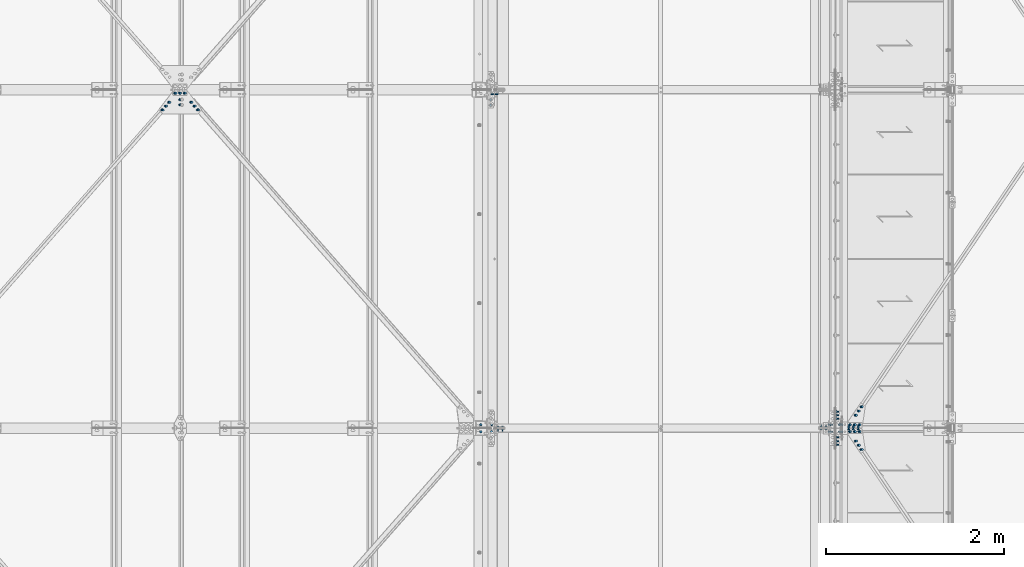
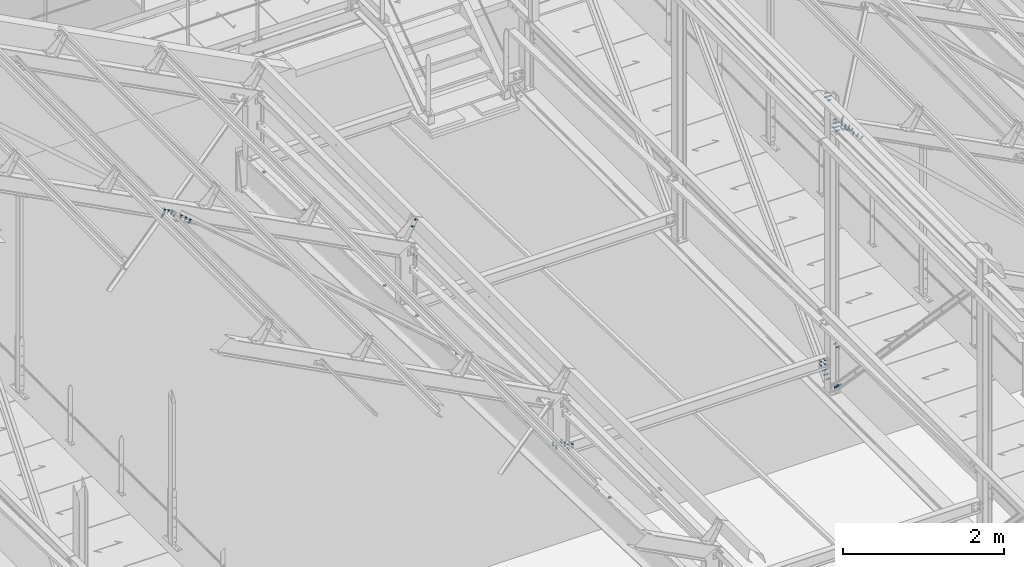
# One storey, part 170 of 362: 20 mechanical fasteners.
"""IFC2X3 building model written with IfcOpenShell, lengths in millimetres."""

from ifc_helpers import new_model, si_unit, frame, frame_2d, origin_with_axes, origin_2d_with_axis, place, context, subcontext, project, spatial, polyline, circle_curve, parameter, trimmed, segment, composite_curve, circle, outline, extrude, source, transform, mapped, material, type_object, element, save


model = new_model("IFC2X3")

# Units and contexts
model_context = context("Model", 3, precision=1e-05, world=origin_with_axes())
body_context = subcontext(model_context, "Body", "Model", "MODEL_VIEW")
ifc_project = project(units=[si_unit("LENGTHUNIT", "METRE", prefix="MILLI"), si_unit("AREAUNIT", "SQUARE_METRE"), si_unit("VOLUMEUNIT", "CUBIC_METRE"), si_unit("MASSUNIT", "GRAM", prefix="KILO"), si_unit("TIMEUNIT", "SECOND"), si_unit("PLANEANGLEUNIT", "RADIAN"), si_unit("SOLIDANGLEUNIT", "STERADIAN"), si_unit("THERMODYNAMICTEMPERATUREUNIT", "DEGREE_CELSIUS"), si_unit("LUMINOUSINTENSITYUNIT", "LUMEN")], contexts=[model_context])

# Site, building, storey
site_placement = place(None, origin_with_axes())
site = spatial("IfcSite", under=ifc_project, at=site_placement, Name="Undefined", CompositionType="ELEMENT")
building_placement = place(site_placement, origin_with_axes())
building = spatial("IfcBuilding", under=site, at=building_placement, Name="Undefined", CompositionType="ELEMENT")
storey_placement = place(building_placement, origin_with_axes())
storey = spatial("IfcBuildingStorey", under=building, at=storey_placement, Name="Undefined", CompositionType="ELEMENT", Elevation=0.0)

# Mechanical fasteners
ifc_material_1 = material(Name="8.8-SB-ZINGUE")
mechanical_fastener_type = type_object("IfcMechanicalFastenerType", Name="Bolt assembly")
shared_shape_1 = source(origin_with_axes(), body_context, "Body", "SweptSolid", [
    extrude(circle(Radius=7.0, at=origin_2d_with_axis()), frame((0.0, -0.10007666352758, 0.0), z_axis=(0.0, 1.0, 0.0), x_axis=(1.0, 0.0, 0.0)), (0.0, 0.0, 1.0), 3.1),
    extrude(circle(Radius=7.0, at=origin_2d_with_axis()), frame((0.0, -9.9, 0.0), z_axis=(0.0, 1.0, 0.0), x_axis=(1.0, 0.0, 0.0)), (0.0, 0.0, 1.0), 10.0),
    extrude(outline(polyline([(10.39230484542, 0.0), (5.19615242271, 9.00000000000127), (-5.19615242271, 9.00000000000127), (-10.39230484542, 0.0), (-5.19615242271, -9.00000000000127), (5.19615242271, -9.00000000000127), (10.39230484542, 0.0)])), frame((0.0, -17.92, 0.0), z_axis=(0.0, 1.0, 0.0), x_axis=(1.0, 0.0, 0.0)), (0.0, 0.0, 1.0), 7.92),
    extrude(circle(Radius=6.0, at=origin_2d_with_axis()), frame((0.0, -10.0000010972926, 0.0), z_axis=(0.0, 1.0, 0.0), x_axis=(1.0, 0.0, 0.0)), (0.0, 0.0, 1.0), 30.0),
    extrude(outline(polyline([(11.5008173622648, 0.0), (5.7504086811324, 9.96000000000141), (-5.7504086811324, 9.96000000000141), (-11.5008173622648, 0.0), (-5.7504086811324, -9.96000000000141), (5.7504086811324, -9.96000000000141), (11.5008173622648, 0.0)])), frame((0.0, 3.00000067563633, 0.0), z_axis=(0.0, 1.0, 0.0), x_axis=(1.0, 0.0, 0.0)), (0.0, 0.0, 1.0), 7.92),
])
mechanical_fastener_1_placement = place(storey_placement, frame((19620.3252333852, 11350.0000596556, 8812.98460901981), z_axis=(0.0, 1.0, 0.0), x_axis=(0.463528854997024, 6.99999093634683e-09, 0.886081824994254)))
element("IfcMechanicalFastener", 1, at=mechanical_fastener_1_placement, inside=storey, type_object=mechanical_fastener_type, material=ifc_material_1, Name="Bolt assembly", NominalDiameter=12.0, NominalLength=30.0, context=body_context, shape_type="MappedRepresentation", body=[
    mapped(shared_shape_1, transform((0.0, 0.0, 0.0))),
    mapped(shared_shape_1, transform((99.9999999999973, -1.63709046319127e-11, 7.73070496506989e-12))),
])
ifc_material_2 = material(Name="#_SB-8.8-ZINGUE")
shared_shape_2 = source(origin_with_axes(), body_context, "Body", "SweptSolid", [
    extrude(circle(Radius=9.0, at=origin_2d_with_axis()), frame((0.0, -5.8999542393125, 0.0), z_axis=(0.0, 1.0, 0.0), x_axis=(1.0, 0.0, 0.0)), (0.0, 0.0, 1.0), 6.0),
    extrude(circle(Radius=9.0, at=origin_2d_with_axis()), frame((0.0, -0.100011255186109, 0.0), z_axis=(0.0, 1.0, 0.0), x_axis=(1.0, 0.0, 0.0)), (0.0, 0.0, 1.0), 6.1),
    extrude(outline(polyline([(13.85640646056, 0.0), (6.92820323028, 12.0000000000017), (-6.92820323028, 12.0000000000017), (-13.85640646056, 0.0), (-6.92820323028, -12.0000000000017), (6.92820323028, -12.0000000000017), (13.85640646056, 0.0)])), frame((0.0, -16.5599735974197, 0.0), z_axis=(0.0, 1.0, 0.0), x_axis=(1.0, 0.0, 0.0)), (0.0, 0.0, 1.0), 10.56),
    extrude(circle(Radius=8.0, at=origin_2d_with_axis()), frame((0.0, -5.9999542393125, 0.0), z_axis=(0.0, 1.0, 0.0), x_axis=(1.0, 0.0, 0.0)), (0.0, 0.0, 1.0), 40.0),
    extrude(outline(polyline([(15.3344231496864, 0.0), (7.6672115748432, 13.2800000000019), (-7.6672115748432, 13.2800000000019), (-15.3344231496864, 0.0), (-7.6672115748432, -13.2800000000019), (7.6672115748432, -13.2800000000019), (15.3344231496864, 0.0)])), frame((0.0, 6.0, 0.0), z_axis=(0.0, 1.0, 0.0), x_axis=(1.0, 0.0, 0.0)), (0.0, 0.0, 1.0), 10.56),
])
for number, where, z_axis, x_axis, name in (
    (2, (16239.1603317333, 11259.0095576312, 10209.3179658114), (0.628485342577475, 0.704921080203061, -0.328774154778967), (0.624617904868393, -0.709285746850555, -0.326750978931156), "Bolt assembly"),
    (3, (15990.8396660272, 11259.009555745, 10339.2198168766), (0.628485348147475, -0.704921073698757, -0.328774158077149), (-0.624617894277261, -0.709285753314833, 0.326750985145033), "Bolt assembly"),
):
    element("IfcMechanicalFastener", number, at=place(storey_placement, frame(where, z_axis=z_axis, x_axis=x_axis)), inside=storey, type_object=mechanical_fastener_type, material=ifc_material_2, Name=name, NominalDiameter=16.0, NominalLength=40.0, context=body_context, shape_type="MappedRepresentation", body=[
        mapped(shared_shape_2, transform((0.0, 0.0, 0.0))),
        mapped(shared_shape_2, transform((60.0, 0.0, 0.0))),
        mapped(shared_shape_2, transform((120.0, 0.0, 0.0))),
    ])
shared_shape_3 = source(origin_with_axes(), body_context, "Body", "SweptSolid", [
    extrude(circle(Radius=9.0, at=origin_2d_with_axis()), frame((0.0, 0.1, 0.0), z_axis=(0.0, 1.0, 0.0), x_axis=(1.0, 0.0, 0.0)), (0.0, 0.0, 1.0), 6.0),
    extrude(circle(Radius=9.0, at=origin_2d_with_axis()), frame((0.0, 5.90002706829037, 0.0), z_axis=(0.0, 1.0, 0.0), x_axis=(1.0, 0.0, 0.0)), (0.0, 0.0, 1.0), 6.1),
    extrude(outline(polyline([(13.85640646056, 0.0), (6.92820323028, 12.0000000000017), (-6.92820323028, 12.0000000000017), (-13.85640646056, 0.0), (-6.92820323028, -12.0000000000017), (6.92820323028, -12.0000000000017), (13.85640646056, 0.0)])), frame((0.0, -10.5600019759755, 0.0), z_axis=(0.0, 1.0, 0.0), x_axis=(1.0, 0.0, 0.0)), (0.0, 0.0, 1.0), 10.56),
    extrude(circle(Radius=8.0, at=origin_2d_with_axis()), frame((0.0, 0.0, 0.0), z_axis=(0.0, 1.0, 0.0), x_axis=(1.0, 0.0, 0.0)), (0.0, 0.0, 1.0), 40.0),
    extrude(outline(polyline([(15.3344231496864, 0.0), (7.6672115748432, 13.2800000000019), (-7.6672115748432, 13.2800000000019), (-15.3344231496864, 0.0), (-7.6672115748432, -13.2800000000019), (7.6672115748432, -13.2800000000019), (15.3344231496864, 0.0)])), frame((0.0, 12.0000270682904, 0.0), z_axis=(0.0, 1.0, 0.0), x_axis=(1.0, 0.0, 0.0)), (0.0, 0.0, 1.0), 10.56),
])
for number, where, z_axis, x_axis, name in (
    (4, (23691.9693613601, 7562.00026809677, 11177.620775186), (-0.887870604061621, -1.29999898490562e-08, 0.460093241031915), (0.0, 1.0, 0.0), "Bolt assembly"),
    (5, (23691.9693602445, 7638.00006289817, 11177.6207751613), (0.887870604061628, 0.0, -0.460093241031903), (0.0, -1.0, 0.0), "Bolt assembly"),
    (6, (16114.9966699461, 11361.500154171, 10274.2706319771), (-0.886082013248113, 9.38091927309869e-07, 0.463528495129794), (0.0, 1.0, 0.0), "Bolt assembly"),
):
    element("IfcMechanicalFastener", number, at=place(storey_placement, frame(where, z_axis=z_axis, x_axis=x_axis)), inside=storey, type_object=mechanical_fastener_type, material=ifc_material_2, Name=name, NominalDiameter=16.0, NominalLength=40.0, context=body_context, shape_type="MappedRepresentation", body=[
        mapped(shared_shape_3, transform((0.0, 0.0, -60.0))),
        mapped(shared_shape_3, transform((0.0, 0.0, 0.0))),
        mapped(shared_shape_3, transform((0.0, 0.0, 60.0))),
    ])
shared_shape_4 = source(origin_with_axes(), body_context, "Body", "SweptSolid", [
    extrude(circle(Radius=9.0, at=origin_2d_with_axis()), frame((0.0, -10.9000000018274, 0.0), z_axis=(0.0, 1.0, 0.0), x_axis=(1.0, 0.0, 0.0)), (0.0, 0.0, 1.0), 6.0),
    extrude(circle(Radius=9.0, at=origin_2d_with_axis()), frame((0.0, 4.9000000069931, 0.0), z_axis=(0.0, 1.0, 0.0), x_axis=(1.0, 0.0, 0.0)), (0.0, 0.0, 1.0), 6.1),
    extrude(circle(Radius=9.0, at=origin_2d_with_axis()), frame((0.0, -3.99999923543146, 0.0), z_axis=(0.0, 1.0, 0.0), x_axis=(1.0, 0.0, 0.0)), (0.0, 0.0, 1.0), 8.0),
    extrude(outline(polyline([(13.85640646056, 0.0), (6.92820323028, 12.0000000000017), (-6.92820323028, 12.0000000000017), (-13.85640646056, 0.0), (-6.92820323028, -12.0000000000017), (6.92820323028, -12.0000000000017), (13.85640646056, 0.0)])), frame((0.0, -21.5600000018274, 0.0), z_axis=(0.0, 1.0, 0.0), x_axis=(1.0, 0.0, 0.0)), (0.0, 0.0, 1.0), 10.56),
    extrude(circle(Radius=8.0, at=origin_2d_with_axis()), frame((0.0, -11.0000000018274, 0.0), z_axis=(0.0, 1.0, 0.0), x_axis=(1.0, 0.0, 0.0)), (0.0, 0.0, 1.0), 50.0),
    extrude(outline(polyline([(15.3344231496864, 0.0), (7.6672115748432, 13.2800000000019), (-7.6672115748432, 13.2800000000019), (-15.3344231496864, 0.0), (-7.6672115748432, -13.2800000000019), (7.6672115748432, -13.2800000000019), (15.3344231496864, 0.0)])), frame((0.0, 11.0000000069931, 0.0), z_axis=(0.0, 1.0, 0.0), x_axis=(1.0, 0.0, 0.0)), (0.0, 0.0, 1.0), 10.56),
])
for number, where, z_axis, x_axis, name in (
    (7, (23470.0, 7496.49732713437, 7358.56885556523), (0.0, 0.723792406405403, 0.69001779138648), (0.0, -0.69001779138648, 0.723792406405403), "Bolt assembly"),
    (8, (23470.0, 7703.50267536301, 7358.56885461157), (0.0, 0.723792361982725, -0.690017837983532), (0.0, 0.690017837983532, 0.723792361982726), "Bolt assembly"),
):
    element("IfcMechanicalFastener", number, at=place(storey_placement, frame(where, z_axis=z_axis, x_axis=x_axis)), inside=storey, type_object=mechanical_fastener_type, material=ifc_material_1, Name=name, NominalDiameter=16.0, NominalLength=50.0, context=body_context, shape_type="MappedRepresentation", body=[
        mapped(shared_shape_4, transform((0.0, 0.0, 0.0))),
        mapped(shared_shape_4, transform((60.0, 0.0, 0.0))),
        mapped(shared_shape_4, transform((120.0, 0.0, 0.0))),
    ])
shared_shape_5 = source(origin_with_axes(), body_context, "Body", "SweptSolid", [
    extrude(circle(Radius=7.0, at=origin_2d_with_axis()), frame((0.0, -0.10007666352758, 0.0), z_axis=(0.0, 1.0, 0.0), x_axis=(1.0, 0.0, 0.0)), (0.0, 0.0, 1.0), 8.6),
    extrude(circle(Radius=7.0, at=origin_2d_with_axis()), frame((0.0, -6.9, 0.0), z_axis=(0.0, 1.0, 0.0), x_axis=(1.0, 0.0, 0.0)), (0.0, 0.0, 1.0), 7.0),
    extrude(outline(polyline([(10.39230484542, 0.0), (5.19615242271, 9.00000000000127), (-5.19615242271, 9.00000000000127), (-10.39230484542, 0.0), (-5.19615242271, -9.00000000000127), (5.19615242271, -9.00000000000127), (10.39230484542, 0.0)])), frame((0.0, -14.92, 0.0), z_axis=(0.0, 1.0, 0.0), x_axis=(1.0, 0.0, 0.0)), (0.0, 0.0, 1.0), 7.92),
    extrude(circle(Radius=6.0, at=origin_2d_with_axis()), frame((0.0, -7.0, 0.0), z_axis=(0.0, 1.0, 0.0), x_axis=(1.0, 0.0, 0.0)), (0.0, 0.0, 1.0), 30.0),
    extrude(outline(polyline([(11.5008173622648, 0.0), (5.7504086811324, 9.96000000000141), (-5.7504086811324, 9.96000000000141), (-11.5008173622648, 0.0), (-5.7504086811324, -9.96000000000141), (5.7504086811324, -9.96000000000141), (11.5008173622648, 0.0)])), frame((0.0, 8.49994421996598, 0.0), z_axis=(0.0, 1.0, 0.0), x_axis=(1.0, 0.0, 0.0)), (0.0, 0.0, 1.0), 7.92),
])
mechanical_fastener_2_placement = place(storey_placement, frame((23536.49994422, 7599.99999998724, 7910.00000000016), z_axis=(0.0, -1.0, 0.0), x_axis=(0.0, 0.0, 1.0)))
element("IfcMechanicalFastener", 9, at=mechanical_fastener_2_placement, inside=storey, type_object=mechanical_fastener_type, material=ifc_material_1, Name="Bolt assembly", NominalDiameter=12.0, NominalLength=30.0, context=body_context, shape_type="MappedRepresentation", body=[
    mapped(shared_shape_5, transform((0.0, 0.0, -40.0))),
    mapped(shared_shape_5, transform((0.0, 0.0, 40.0))),
])
shared_shape_6 = source(origin_with_axes(), body_context, "Body", "SweptSolid", [
    extrude(circle(Radius=9.0, at=origin_2d_with_axis()), frame((0.0, -3.89999843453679, 0.0), z_axis=(0.0, 1.0, 0.0), x_axis=(1.0, 0.0, 0.0)), (0.0, 0.0, 1.0), 4.0),
    extrude(circle(Radius=9.0, at=origin_2d_with_axis()), frame((0.0, -0.100011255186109, 0.0), z_axis=(0.0, 1.0, 0.0), x_axis=(1.0, 0.0, 0.0)), (0.0, 0.0, 1.0), 6.1),
    extrude(outline(polyline([(13.85640646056, 0.0), (6.92820323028, 12.0000000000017), (-6.92820323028, 12.0000000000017), (-13.85640646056, 0.0), (-6.92820323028, -12.0000000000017), (6.92820323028, -12.0000000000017), (13.85640646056, 0.0)])), frame((0.0, -14.560000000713, 0.0), z_axis=(0.0, 1.0, 0.0), x_axis=(1.0, 0.0, 0.0)), (0.0, 0.0, 1.0), 10.56),
    extrude(circle(Radius=8.0, at=origin_2d_with_axis()), frame((0.0, -3.99999923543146, 0.0), z_axis=(0.0, 1.0, 0.0), x_axis=(1.0, 0.0, 0.0)), (0.0, 0.0, 1.0), 30.0),
    extrude(outline(polyline([(15.3344231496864, 0.0), (7.6672115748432, 13.2800000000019), (-7.6672115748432, 13.2800000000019), (-15.3344231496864, 0.0), (-7.6672115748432, -13.2800000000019), (7.6672115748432, -13.2800000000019), (15.3344231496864, 0.0)])), frame((0.0, 6.0, 0.0), z_axis=(0.0, 1.0, 0.0), x_axis=(1.0, 0.0, 0.0)), (0.0, 0.0, 1.0), 10.56),
])
mechanical_fastener_3_placement = place(storey_placement, frame((16114.9976051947, 11290.0016058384, 10274.270143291), z_axis=(0.886082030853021, 2.26635428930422e-05, -0.463528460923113), x_axis=(2.01259999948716e-05, -0.999999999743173, -1.04209999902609e-05)))
element("IfcMechanicalFastener", 10, at=mechanical_fastener_3_placement, inside=storey, type_object=mechanical_fastener_type, material=ifc_material_2, Name="Bolt assembly", NominalDiameter=16.0, NominalLength=30.0, context=body_context, shape_type="MappedRepresentation", body=[
    mapped(shared_shape_6, transform((0.0, 0.0, 0.0))),
    mapped(shared_shape_6, transform((60.0, 0.0, 0.0))),
])
shared_shape_7 = source(origin_with_axes(), body_context, "Body", "SweptSolid", [
    extrude(circle(Radius=9.0, at=origin_2d_with_axis()), frame((0.0, -5.8999542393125, 0.0), z_axis=(0.0, 1.0, 0.0), x_axis=(1.0, 0.0, 0.0)), (0.0, 0.0, 1.0), 6.0),
    extrude(circle(Radius=9.0, at=origin_2d_with_axis()), frame((0.0, -0.10007666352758, 0.0), z_axis=(0.0, 1.0, 0.0), x_axis=(1.0, 0.0, 0.0)), (0.0, 0.0, 1.0), 6.1),
    extrude(outline(polyline([(13.85640646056, 0.0), (6.92820323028, 12.0000000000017), (-6.92820323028, 12.0000000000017), (-13.85640646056, 0.0), (-6.92820323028, -12.0000000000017), (6.92820323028, -12.0000000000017), (13.85640646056, 0.0)])), frame((0.0, -16.5599735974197, 0.0), z_axis=(0.0, 1.0, 0.0), x_axis=(1.0, 0.0, 0.0)), (0.0, 0.0, 1.0), 10.56),
    extrude(circle(Radius=8.0, at=origin_2d_with_axis()), frame((0.0, -5.9999542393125, 0.0), z_axis=(0.0, 1.0, 0.0), x_axis=(1.0, 0.0, 0.0)), (0.0, 0.0, 1.0), 40.0),
    extrude(outline(polyline([(15.3344231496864, 0.0), (7.6672115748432, 13.2800000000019), (-7.6672115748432, 13.2800000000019), (-15.3344231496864, 0.0), (-7.6672115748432, -13.2800000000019), (7.6672115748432, -13.2800000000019), (15.3344231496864, 0.0)])), frame((0.0, 5.99989660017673, 0.0), z_axis=(0.0, 1.0, 0.0), x_axis=(1.0, 0.0, 0.0)), (0.0, 0.0, 1.0), 10.56),
])
for number, where, z_axis, x_axis, name in (
    (11, (23701.1874006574, 7455.19008030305, 11172.8439322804), (0.706117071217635, 0.60622555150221, -0.365908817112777), (0.538249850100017, -0.795292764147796, -0.278920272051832), "Bolt assembly"),
    (12, (23701.1873962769, 7744.81025044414, 11172.8439322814), (-0.70611707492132, 0.606225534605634, 0.365908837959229), (0.53824982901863, 0.795292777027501, -0.278920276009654), "Bolt assembly"),
):
    element("IfcMechanicalFastener", number, at=place(storey_placement, frame(where, z_axis=z_axis, x_axis=x_axis)), inside=storey, type_object=mechanical_fastener_type, material=ifc_material_2, Name=name, NominalDiameter=16.0, NominalLength=40.0, context=body_context, shape_type="MappedRepresentation", body=[
        mapped(shared_shape_7, transform((0.0, 0.0, 0.0))),
        mapped(shared_shape_7, transform((60.0, 0.0, 0.0))),
        mapped(shared_shape_7, transform((120.0, 0.0, 0.0))),
    ])
shared_shape_8 = source(origin_with_axes(), body_context, "Body", "SweptSolid", [
    extrude(circle(Radius=9.0, at=origin_2d_with_axis()), frame((0.0, -2.80016829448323, 0.0), z_axis=(0.0, 1.0, 0.0), x_axis=(1.0, 0.0, 0.0)), (0.0, 0.0, 1.0), 5.6),
    extrude(circle(Radius=9.0, at=origin_2d_with_axis()), frame((0.0, 2.89989517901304, 0.0), z_axis=(0.0, 1.0, 0.0), x_axis=(1.0, 0.0, 0.0)), (0.0, 0.0, 1.0), 6.1),
    extrude(circle(Radius=9.0, at=origin_2d_with_axis()), frame((0.0, -8.89990143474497, 0.0), z_axis=(0.0, 1.0, 0.0), x_axis=(1.0, 0.0, 0.0)), (0.0, 0.0, 1.0), 6.0),
    extrude(outline(polyline([(13.85640646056, 0.0), (6.92820323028, 12.0000000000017), (-6.92820323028, 12.0000000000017), (-13.85640646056, 0.0), (-6.92820323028, -12.0000000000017), (6.92820323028, -12.0000000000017), (13.85640646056, 0.0)])), frame((0.0, -19.559901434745, 0.0), z_axis=(0.0, 1.0, 0.0), x_axis=(1.0, 0.0, 0.0)), (0.0, 0.0, 1.0), 10.56),
    extrude(circle(Radius=8.0, at=origin_2d_with_axis()), frame((0.0, -8.99990143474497, 0.0), z_axis=(0.0, 1.0, 0.0), x_axis=(1.0, 0.0, 0.0)), (0.0, 0.0, 1.0), 40.0),
    extrude(outline(polyline([(15.3344231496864, 0.0), (7.6672115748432, 13.2800000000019), (-7.6672115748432, 13.2800000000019), (-15.3344231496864, 0.0), (-7.6672115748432, -13.2800000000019), (7.6672115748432, -13.2800000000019), (15.3344231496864, 0.0)])), frame((0.0, 8.9999337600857, 0.0), z_axis=(0.0, 1.0, 0.0), x_axis=(1.0, 0.0, 0.0)), (0.0, 0.0, 1.0), 10.56),
])
mechanical_fastener_4_placement = place(storey_placement, frame((23673.1055081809, 7600.00016833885, 11141.2180581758), z_axis=(-0.887870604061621, -1.29999898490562e-08, 0.460093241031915), x_axis=(0.460093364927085, 0.0, 0.887870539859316)))
element("IfcMechanicalFastener", 13, at=mechanical_fastener_4_placement, inside=storey, type_object=mechanical_fastener_type, material=ifc_material_2, Name="Bolt assembly", NominalDiameter=16.0, NominalLength=40.0, context=body_context, shape_type="MappedRepresentation", body=[
    mapped(shared_shape_8, transform((0.0, 0.0, -60.0))),
    mapped(shared_shape_8, transform((0.0, 0.0, 0.0))),
    mapped(shared_shape_8, transform((0.0, 0.0, 60.0))),
])
shared_shape_9 = source(origin_with_axes(), body_context, "Body", "SweptSolid", [
    extrude(circle(Radius=7.0, at=origin_2d_with_axis()), frame((0.0, -3.89999843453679, 0.0), z_axis=(0.0, 1.0, 0.0), x_axis=(1.0, 0.0, 0.0)), (0.0, 0.0, 1.0), 4.0),
    extrude(outline(composite_curve([segment(polyline([(-7.0, 7.0), (7.0, 7.0)]), True, "CONTINUOUS"), segment(trimmed(circle_curve(frame_2d((7.0, 0.0), x_axis=(0.0, 1.0)), 7.0), [parameter(0.0)], [parameter(3.14159265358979)], False, "PARAMETER"), True, "CONTINUOUS"), segment(polyline([(7.0, -7.0), (-7.0, -7.0)]), True, "CONTINUOUS"), segment(trimmed(circle_curve(frame_2d((-7.0, 0.0), x_axis=(0.0, -1.0)), 7.0), [parameter(0.0)], [parameter(3.14159265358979)], False, "PARAMETER"), True, "DISCONTINUOUS")], self_intersect=False)), frame((0.0, -0.100011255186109, 0.0), z_axis=(0.0, 1.0, 0.0), x_axis=(1.0, 0.0, 0.0)), (0.0, 0.0, 1.0), 10.1),
    extrude(outline(polyline([(10.39230484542, 0.0), (5.19615242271, 9.00000000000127), (-5.19615242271, 9.00000000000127), (-10.39230484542, 0.0), (-5.19615242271, -9.00000000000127), (5.19615242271, -9.00000000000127), (10.39230484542, 0.0)])), frame((0.0, -11.9199984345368, 0.0), z_axis=(0.0, 1.0, 0.0), x_axis=(1.0, 0.0, 0.0)), (0.0, 0.0, 1.0), 7.92),
    extrude(circle(Radius=6.0, at=origin_2d_with_axis()), frame((0.0, -3.99999923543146, 0.0), z_axis=(0.0, 1.0, 0.0), x_axis=(1.0, 0.0, 0.0)), (0.0, 0.0, 1.0), 40.0),
    extrude(circle(Radius=10.8, at=origin_2d_with_axis()), frame((0.0, 10.0000000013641, 0.0), z_axis=(0.0, 1.0, 0.0), x_axis=(1.0, 0.0, 0.0)), (0.0, 0.0, 1.0), 3.96),
    extrude(outline(polyline([(11.5008173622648, 0.0), (5.7504086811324, 9.96000000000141), (-5.7504086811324, 9.96000000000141), (-11.5008173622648, 0.0), (-5.7504086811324, -9.96000000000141), (5.7504086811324, -9.96000000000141), (11.5008173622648, 0.0)])), frame((0.0, 13.96, 0.0), z_axis=(0.0, 1.0, 0.0), x_axis=(1.0, 0.0, 0.0)), (0.0, 0.0, 1.0), 7.92),
])
mechanical_fastener_5_placement = place(storey_placement, frame((19599.9999999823, 11226.5, 8450.0), z_axis=(-1.0, 0.0, 0.0), x_axis=(0.0, 1.0, 0.0)))
element("IfcMechanicalFastener", 14, at=mechanical_fastener_5_placement, inside=storey, type_object=mechanical_fastener_type, material=ifc_material_1, Name="Bolt assembly", NominalDiameter=12.0, NominalLength=40.0, context=body_context, shape_type="MappedRepresentation", body=[
    mapped(shared_shape_9, transform((0.0, 0.0, 0.0))),
    mapped(shared_shape_9, transform((60.0, 0.0, 0.0))),
])
shared_shape_10 = source(origin_with_axes(), body_context, "Body", "SweptSolid", [
    extrude(circle(Radius=9.0, at=origin_2d_with_axis()), frame((0.0, -0.0990448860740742, 0.0), z_axis=(0.0, 1.0, 0.0), x_axis=(1.0, 0.0, 0.0)), (0.0, 0.0, 1.0), 17.3),
    extrude(circle(Radius=9.0, at=origin_2d_with_axis()), frame((0.0, -9.9, 0.0), z_axis=(0.0, 1.0, 0.0), x_axis=(1.0, 0.0, 0.0)), (0.0, 0.0, 1.0), 10.0),
    extrude(outline(polyline([(13.85640646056, 0.0), (6.92820323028, 12.0000000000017), (-6.92820323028, 12.0000000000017), (-13.85640646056, 0.0), (-6.92820323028, -12.0000000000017), (6.92820323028, -12.0000000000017), (13.85640646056, 0.0)])), frame((0.0, -20.5600000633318, 0.0), z_axis=(0.0, 1.0, 0.0), x_axis=(1.0, 0.0, 0.0)), (0.0, 0.0, 1.0), 10.56),
    extrude(circle(Radius=8.0, at=origin_2d_with_axis()), frame((0.0, -10.0000010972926, 0.0), z_axis=(0.0, 1.0, 0.0), x_axis=(1.0, 0.0, 0.0)), (0.0, 0.0, 1.0), 50.0),
    extrude(outline(polyline([(15.3344231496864, 0.0), (7.6672115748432, 13.2800000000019), (-7.6672115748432, 13.2800000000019), (-15.3344231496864, 0.0), (-7.6672115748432, -13.2800000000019), (7.6672115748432, -13.2800000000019), (15.3344231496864, 0.0)])), frame((0.0, 17.2009579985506, 0.0), z_axis=(0.0, 1.0, 0.0), x_axis=(1.0, 0.0, 0.0)), (0.0, 0.0, 1.0), 10.56),
])
mechanical_fastener_6_placement = place(storey_placement, frame((19550.0, 7559.70531343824, 7812.42764782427), z_axis=(-1.0, 0.0, 0.0), x_axis=(3.14103090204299e-11, 0.999506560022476, -0.0314107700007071)))
element("IfcMechanicalFastener", 15, at=mechanical_fastener_6_placement, inside=storey, type_object=mechanical_fastener_type, material=ifc_material_1, Name="Bolt assembly", NominalDiameter=16.0, NominalLength=50.0, context=body_context, shape_type="MappedRepresentation", body=[
    mapped(shared_shape_10, transform((0.0, 0.0, -60.0))),
    mapped(shared_shape_10, transform((80.0, 0.0, -60.0))),
    mapped(shared_shape_10, transform((0.0, 0.0, 60.0))),
    mapped(shared_shape_10, transform((80.0, 0.0, 60.0))),
])
shared_shape_11 = source(origin_with_axes(), body_context, "Body", "SweptSolid", [
    extrude(circle(Radius=9.0, at=origin_2d_with_axis()), frame((0.0, -0.091713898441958, 0.0), z_axis=(0.0, 1.0, 0.0), x_axis=(1.0, 0.0, 0.0)), (0.0, 0.0, 1.0), 8.6),
    extrude(circle(Radius=9.0, at=origin_2d_with_axis()), frame((0.0, -9.89171439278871, 0.0), z_axis=(0.0, 1.0, 0.0), x_axis=(1.0, 0.0, 0.0)), (0.0, 0.0, 1.0), 10.0),
    extrude(outline(polyline([(13.85640646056, 0.0), (6.92820323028, 12.0000000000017), (-6.92820323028, 12.0000000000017), (-13.85640646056, 0.0), (-6.92820323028, -12.0000000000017), (6.92820323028, -12.0000000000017), (13.85640646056, 0.0)])), frame((0.0, -20.5517143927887, 0.0), z_axis=(0.0, 1.0, 0.0), x_axis=(1.0, 0.0, 0.0)), (0.0, 0.0, 1.0), 10.56),
    extrude(circle(Radius=8.0, at=origin_2d_with_axis()), frame((0.0, -9.99171439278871, 0.0), z_axis=(0.0, 1.0, 0.0), x_axis=(1.0, 0.0, 0.0)), (0.0, 0.0, 1.0), 40.0),
    extrude(outline(polyline([(15.3344231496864, 0.0), (7.6672115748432, 13.2800000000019), (-7.6672115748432, 13.2800000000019), (-15.3344231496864, 0.0), (-7.6672115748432, -13.2800000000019), (7.6672115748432, -13.2800000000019), (15.3344231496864, 0.0)])), frame((0.0, 8.50828610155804, 0.0), z_axis=(0.0, 1.0, 0.0), x_axis=(1.0, 0.0, 0.0)), (0.0, 0.0, 1.0), 10.56),
])
mechanical_fastener_7_placement = place(storey_placement, frame((23536.5082856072, 7560.0, 11258.0026850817), z_axis=(0.0, 0.0, 1.0), x_axis=(0.0, 1.0, 0.0)))
element("IfcMechanicalFastener", 16, at=mechanical_fastener_7_placement, inside=storey, type_object=mechanical_fastener_type, material=ifc_material_1, Name="Bolt assembly", NominalDiameter=16.0, NominalLength=40.0, context=body_context, shape_type="MappedRepresentation", body=[
    mapped(shared_shape_11, transform((0.0, 0.0, -60.0))),
    mapped(shared_shape_11, transform((80.0, 0.0, -60.0))),
    mapped(shared_shape_11, transform((0.0, 0.0, 0.0))),
    mapped(shared_shape_11, transform((80.0, 0.0, 0.0))),
    mapped(shared_shape_11, transform((0.0, 0.0, 60.0))),
    mapped(shared_shape_11, transform((80.0, 0.0, 60.0))),
])
shared_shape_12 = source(origin_with_axes(), body_context, "Body", "SweptSolid", [
    extrude(circle(Radius=9.0, at=origin_2d_with_axis()), frame((0.0, -0.100011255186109, 0.0), z_axis=(0.0, 1.0, 0.0), x_axis=(1.0, 0.0, 0.0)), (0.0, 0.0, 1.0), 8.6),
    extrude(circle(Radius=9.0, at=origin_2d_with_axis()), frame((0.0, -2.9, 0.0), z_axis=(0.0, 1.0, 0.0), x_axis=(1.0, 0.0, 0.0)), (0.0, 0.0, 1.0), 3.0),
    extrude(outline(polyline([(13.85640646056, 0.0), (6.92820323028, 12.0000000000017), (-6.92820323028, 12.0000000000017), (-13.85640646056, 0.0), (-6.92820323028, -12.0000000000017), (6.92820323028, -12.0000000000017), (13.85640646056, 0.0)])), frame((0.0, -13.56, 0.0), z_axis=(0.0, 1.0, 0.0), x_axis=(1.0, 0.0, 0.0)), (0.0, 0.0, 1.0), 10.56),
    extrude(circle(Radius=8.0, at=origin_2d_with_axis()), frame((0.0, -2.99999932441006, 0.0), z_axis=(0.0, 1.0, 0.0), x_axis=(1.0, 0.0, 0.0)), (0.0, 0.0, 1.0), 40.0),
    extrude(outline(polyline([(15.3344231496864, 0.0), (7.6672115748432, 13.2800000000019), (-7.6672115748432, 13.2800000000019), (-15.3344231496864, 0.0), (-7.6672115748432, -13.2800000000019), (7.6672115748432, -13.2800000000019), (15.3344231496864, 0.0)])), frame((0.0, 8.49999994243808, 0.0), z_axis=(0.0, 1.0, 0.0), x_axis=(1.0, 0.0, 0.0)), (0.0, 0.0, 1.0), 10.56),
])
for number, where, z_axis, x_axis, name in (
    (17, (23403.49999895, 7639.99695097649, 11701.409878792), (0.0, 1.0, 0.0), (0.0, 0.0, 1.0), "Bolt assembly"),
    (18, (23403.49999895, 7559.99999584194, 11701.409878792), (0.0, 1.0, 0.0), (0.0, 0.0, 1.0), "Bolt assembly"),
):
    element("IfcMechanicalFastener", number, at=place(storey_placement, frame(where, z_axis=z_axis, x_axis=x_axis)), inside=storey, type_object=mechanical_fastener_type, material=ifc_material_1, Name=name, NominalDiameter=16.0, NominalLength=40.0, context=body_context, shape_type="MappedRepresentation", body=[
        mapped(shared_shape_12, transform((0.0, 0.0, 0.0))),
        mapped(shared_shape_12, transform((60.0, 0.0, 0.0))),
    ])
shared_shape_13 = source(origin_with_axes(), body_context, "Body", "SweptSolid", [
    extrude(circle(Radius=7.0, at=origin_2d_with_axis()), frame((0.0, -2.64402363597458, 0.0), z_axis=(0.0, 1.0, 0.0), x_axis=(1.0, 0.0, 0.0)), (0.0, 0.0, 1.0), 5.3),
    extrude(circle(Radius=7.0, at=origin_2d_with_axis()), frame((0.0, 2.90038411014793, 0.0), z_axis=(0.0, 1.0, 0.0), x_axis=(1.0, 0.0, 0.0)), (0.0, 0.0, 1.0), 10.1),
    extrude(circle(Radius=7.0, at=origin_2d_with_axis()), frame((0.0, -12.9004311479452, 0.0), z_axis=(0.0, 1.0, 0.0), x_axis=(1.0, 0.0, 0.0)), (0.0, 0.0, 1.0), 10.0),
    extrude(outline(polyline([(10.39230484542, 0.0), (5.19615242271, 9.00000000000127), (-5.19615242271, 9.00000000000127), (-10.39230484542, 0.0), (-5.19615242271, -9.00000000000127), (5.19615242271, -9.00000000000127), (10.39230484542, 0.0)])), frame((0.0, -20.9204311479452, 0.0), z_axis=(0.0, 1.0, 0.0), x_axis=(1.0, 0.0, 0.0)), (0.0, 0.0, 1.0), 7.92),
    extrude(circle(Radius=6.0, at=origin_2d_with_axis()), frame((0.0, -13.0004311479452, 0.0), z_axis=(0.0, 1.0, 0.0), x_axis=(1.0, 0.0, 0.0)), (0.0, 0.0, 1.0), 50.0),
    extrude(outline(polyline([(11.5008173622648, 0.0), (5.7504086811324, 9.96000000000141), (-5.7504086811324, 9.96000000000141), (-11.5008173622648, 0.0), (-5.7504086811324, -9.96000000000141), (5.7504086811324, -9.96000000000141), (11.5008173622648, 0.0)])), frame((0.0, 13.0004311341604, 0.0), z_axis=(0.0, 1.0, 0.0), x_axis=(1.0, 0.0, 0.0)), (0.0, 0.0, 1.0), 7.92),
])
mechanical_fastener_8_placement = place(storey_placement, frame((19733.0, 7600.00599399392, 7721.11592809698), z_axis=(7.58071938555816e-11, 0.0314107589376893, 0.999506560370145), x_axis=(-1.0, 0.0, 0.0)))
element("IfcMechanicalFastener", 19, at=mechanical_fastener_8_placement, inside=storey, type_object=mechanical_fastener_type, material=ifc_material_1, Name="Bolt assembly", NominalDiameter=12.0, NominalLength=50.0, context=body_context, shape_type="MappedRepresentation", body=[
    mapped(shared_shape_13, transform((0.0, 0.0, -30.0))),
    mapped(shared_shape_13, transform((49.9999999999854, 1.98269844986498e-10, -29.9999999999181))),
    mapped(shared_shape_13, transform((0.0, 0.0, 30.0))),
    mapped(shared_shape_13, transform((50.0000000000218, 1.44154910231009e-10, 30.0000000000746))),
])
shared_shape_14 = source(origin_with_axes(), body_context, "Body", "SweptSolid", [
    extrude(circle(Radius=7.0, at=origin_2d_with_axis()), frame((0.0, -2.65018567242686, 0.0), z_axis=(0.0, 1.0, 0.0), x_axis=(1.0, 0.0, 0.0)), (0.0, 0.0, 1.0), 5.3),
    extrude(circle(Radius=7.0, at=origin_2d_with_axis()), frame((0.0, -12.9001594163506, 0.0), z_axis=(0.0, 1.0, 0.0), x_axis=(1.0, 0.0, 0.0)), (0.0, 0.0, 1.0), 10.0),
    extrude(circle(Radius=7.0, at=origin_2d_with_axis()), frame((0.0, 2.90070287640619, 0.0), z_axis=(0.0, 1.0, 0.0), x_axis=(1.0, 0.0, 0.0)), (0.0, 0.0, 1.0), 10.1),
    extrude(outline(polyline([(10.39230484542, 0.0), (5.19615242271, 9.00000000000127), (-5.19615242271, 9.00000000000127), (-10.39230484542, 0.0), (-5.19615242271, -9.00000000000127), (5.19615242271, -9.00000000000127), (10.39230484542, 0.0)])), frame((0.0, -20.9201594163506, 0.0), z_axis=(0.0, 1.0, 0.0), x_axis=(1.0, 0.0, 0.0)), (0.0, 0.0, 1.0), 7.92),
    extrude(circle(Radius=6.0, at=origin_2d_with_axis()), frame((0.0, -13.0001594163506, 0.0), z_axis=(0.0, 1.0, 0.0), x_axis=(1.0, 0.0, 0.0)), (0.0, 0.0, 1.0), 50.0),
    extrude(outline(polyline([(11.5008173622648, 0.0), (5.7504086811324, 9.96000000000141), (-5.7504086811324, 9.96000000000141), (-11.5008173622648, 0.0), (-5.7504086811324, -9.96000000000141), (5.7504086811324, -9.96000000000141), (11.5008173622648, 0.0)])), frame((0.0, 13.0007028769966, 0.0), z_axis=(0.0, 1.0, 0.0), x_axis=(1.0, 0.0, 0.0)), (0.0, 0.0, 1.0), 7.92),
])
mechanical_fastener_9_placement = place(storey_placement, frame((23308.4999999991, 7600.00019986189, 7721.11591610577), z_axis=(7.58071938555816e-11, 0.0314107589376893, 0.999506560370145), x_axis=(0.999999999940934, -1.08559999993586e-05, 5.27999997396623e-07)))
element("IfcMechanicalFastener", 20, at=mechanical_fastener_9_placement, inside=storey, type_object=mechanical_fastener_type, material=ifc_material_1, Name="Bolt assembly", NominalDiameter=12.0, NominalLength=50.0, context=body_context, shape_type="MappedRepresentation", body=[
    mapped(shared_shape_14, transform((0.0, 0.0, -30.0))),
    mapped(shared_shape_14, transform((55.0000000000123, 3.45607986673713e-11, -30.0000000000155))),
    mapped(shared_shape_14, transform((0.0, 0.0, 30.0))),
    mapped(shared_shape_14, transform((54.9999999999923, 3.45607986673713e-11, 29.9999999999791))),
])

save(model, "model.ifc")
